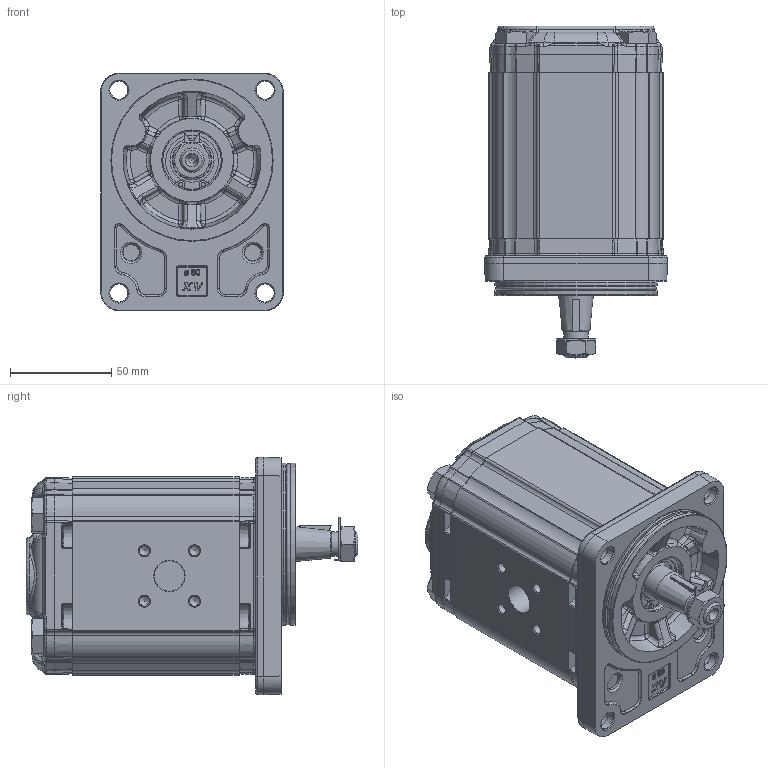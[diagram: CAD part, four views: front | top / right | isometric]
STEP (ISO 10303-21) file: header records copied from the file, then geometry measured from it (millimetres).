
FILE_DESCRIPTION(/* description */ ('Unknown'),/* implementation_level */ '2;1');
FILE_NAME(/* name */ 'X2P5741FSRA',/* time_stamp */ '2026-06-03T17:48:06+02:00',/* author */ ('Unknown'),/* organization */ ('Unknown'),/* preprocessor_version */ 'ST-DEVELOPER v16.7',/* originating_system */ 'Solid Edge',/* authorisation */ 'Unknown');
FILE_SCHEMA (('AUTOMOTIVE_DESIGN {1 0 10303 214 3 1 1}'));
Products named in the file (5): X2P5741FSRA; X2P41; 2F; X2SRH82; XP217-A
Assembly tree (4 placements, depth 2):
  X2P5741FSRA
    X2P41
    2F
    X2SRH82
    XP217-A
Bounding box: 89.99 x 163.65 x 116.99 mm (x, y, z)
Volume: 927414.8 mm3; surface area: 129111.4 mm2
Topology: 4 solids, 8 shells, 2612 faces, 6385 edges, 3842 vertices
Faces by surface type: bspline 707, cylinder 699, plane 617, cone 273, torus 252, sphere 64
Full cylindrical faces by diameter (mm): 2 x2, 3.973 x2, 5 x8, 8.376 x2, 8.5 x2, 9 x12, 10 x6, 10.5 x12, 12 x2, 12.5 x1, 15 x1, 16 x4, 17.42 x1, 17.48 x2, 18.724 x1, 20 x1, 20.595 x1, 21.741 x1, 25 x1, 25.834 x1, 28.56 x1, 28.57 x1, 28.8 x1, 30.5 x1, 77.2 x2, 80 x2
Entity records: 134486 total; most frequent: CARTESIAN_POINT 61587, ORIENTED_EDGE 12034, DIRECTION 9814, EDGE_CURVE 6017, AXIS2_PLACEMENT_3D 3974, VERTEX_POINT 3750, FACE_BOUND 2965, EDGE_LOOP 2955
